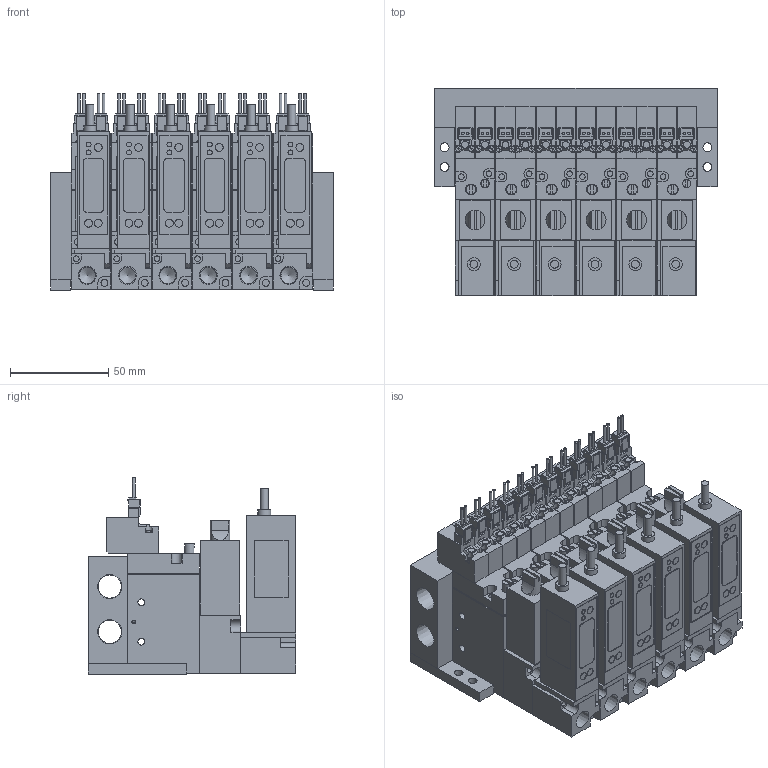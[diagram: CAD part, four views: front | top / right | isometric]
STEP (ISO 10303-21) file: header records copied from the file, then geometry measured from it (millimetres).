
FILE_DESCRIPTION(('STEP AP203'),'1');
FILE_NAME('BMPV32M2NV(R)G25BL606.stp','2025-06-17T01:08:44',(' '),(' '),'Spatial InterOp 3D',' ',' ');
FILE_SCHEMA(('CONFIG_CONTROL_DESIGN'));
Length unit declared in the file: millimetre
Products named in the file (76): BMPV32M2NV(R)G25BL606; Pressure sensor VGL; ___-3(Rc); Filter Assy; __; _____; ___ ___; BMPV32 MB06; MB BRACKET; ___; upper plate-A; ______; ____; VACUUM VALVE FUNCTION MPV42-A
Assembly tree (75 placements, depth 2):
  BMPV32M2NV(R)G25BL606
    Pressure sensor VGL
    ___-3(Rc)
    Filter Assy
    __
    _____
    ___ ___
    Pressure sensor VGL
    ___-3(Rc)
    Filter Assy
    __
    _____
    ___ ___
    Pressure sensor VGL
    ___-3(Rc)
    Filter Assy
    __
    _____
    ___ ___
    Pressure sensor VGL
    ___-3(Rc)
    Filter Assy
    __
    _____
    ___ ___
    Pressure sensor VGL
    ___-3(Rc)
    Filter Assy
    __
    _____
    ___ ___
    BMPV32 MB06
    MB BRACKET
    MB BRACKET
    Pressure sensor VGL
    ___-3(Rc)
    Filter Assy
    __
    _____
    ___ ___
    ___
    upper plate-A
    ______
    ____
    VACUUM VALVE FUNCTION MPV42-A
    VACUUM VALVE FUNCTION MPV42-A
    ___
    upper plate-A
    ______
    ____
    VACUUM VALVE FUNCTION MPV42-A
    VACUUM VALVE FUNCTION MPV42-A
    ___
    upper plate-A
    ______
    ____
    VACUUM VALVE FUNCTION MPV42-A
    VACUUM VALVE FUNCTION MPV42-A
    ___
    upper plate-A
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Bounding box: 143.5 x 105.5 x 99.75 mm (x, y, z)
Volume: 790572.1 mm3; surface area: 257185.8 mm2
Topology: 75 solids, 75 shells, 2291 faces, 5950 edges, 3970 vertices
Faces by surface type: plane 1827, cylinder 414, cone 50
Full cylindrical faces by diameter (mm): 1.4 x24, 1.8 x12, 2 x12, 2.5 x28, 2.8 x24, 3 x24, 3.5 x64, 4 x30, 4.2 x6, 4.5 x4, 5 x6, 5.5 x6, 6.5 x12, 8.2 x6, 8.759 x6, 11.776 x2
Entity records: 71304 total; most frequent: CARTESIAN_POINT 12141, DIRECTION 11232, ORIENTED_EDGE 10948, EDGE_CURVE 5474, LINE 4402, VECTOR 4402, VERTEX_POINT 3856, AXIS2_PLACEMENT_3D 3415
